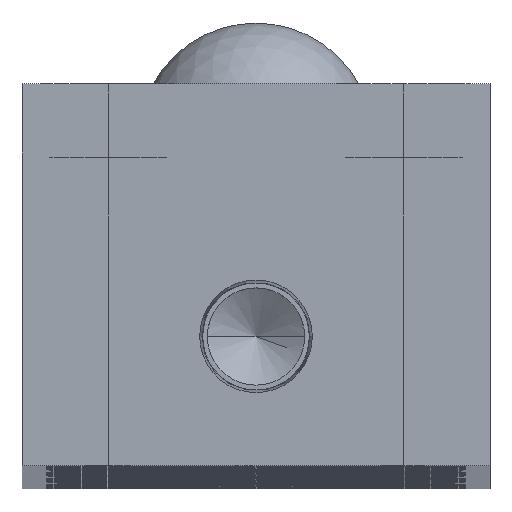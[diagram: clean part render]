
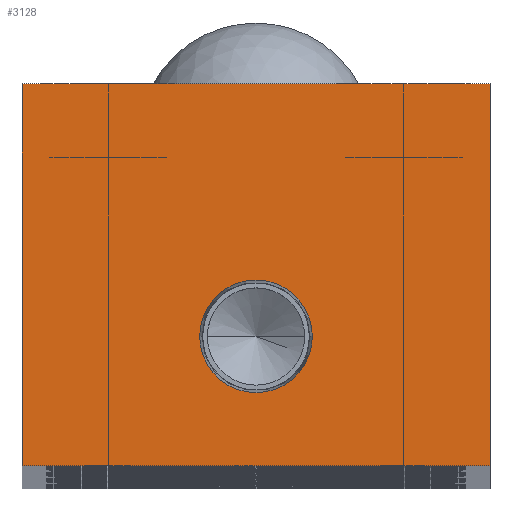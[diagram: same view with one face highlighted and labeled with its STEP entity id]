
A CAD part, top view. The second image highlights one B-rep face of the part: STEP entity #3128.
In plain terms, the highlighted planar face has unit normal (0, 0, 1).
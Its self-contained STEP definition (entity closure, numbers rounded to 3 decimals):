
#39 = CIRCLE ( 'NONE', #481, 4.574 ) ;
#481 = AXIS2_PLACEMENT_3D ( 'NONE', #24424, #12923, #1458 ) ;
#511 = VERTEX_POINT ( 'NONE', #7369 ) ;
#593 = LINE ( 'NONE', #12651, #20957 ) ;
#1196 = CARTESIAN_POINT ( 'NONE',  ( 0., 10.5, 0. ) ) ;
#1456 = CIRCLE ( 'NONE', #21960, 4.574 ) ;
#1458 = DIRECTION ( 'NONE',  ( 1., 0., 0. ) ) ;
#2631 = LINE ( 'NONE', #17971, #22407 ) ;
#2856 = VECTOR ( 'NONE', #16881, 1000. ) ;
#2867 = PLANE ( 'NONE',  #15493 ) ;
#3047 = CARTESIAN_POINT ( 'NONE',  ( 19., 31., 0. ) ) ;
#3128 = ADVANCED_FACE ( 'NONE', ( #23019, #12830 ), #2867, .F. ) ;
#3140 = DIRECTION ( 'NONE',  ( 1., 0., 0. ) ) ;
#3186 = EDGE_CURVE ( 'NONE', #24051, #24291, #1456, .T. ) ;
#3644 = EDGE_CURVE ( 'NONE', #23095, #12172, #2631, .T. ) ;
#4584 = DIRECTION ( 'NONE',  ( 1., 0., 0. ) ) ;
#4786 = DIRECTION ( 'NONE',  ( -1., 0., 0. ) ) ;
#5058 = CARTESIAN_POINT ( 'NONE',  ( -19., 0., 0. ) ) ;
#5246 = EDGE_CURVE ( 'NONE', #511, #23095, #22624, .T. ) ;
#5411 = CARTESIAN_POINT ( 'NONE',  ( -19., 0., 0. ) ) ;
#6041 = EDGE_LOOP ( 'NONE', ( #10821, #6872, #24621, #8936 ) ) ;
#6324 = DIRECTION ( 'NONE',  ( 0., 1., 0. ) ) ;
#6872 = ORIENTED_EDGE ( 'NONE', *, *, #3644, .T. ) ;
#7215 = EDGE_CURVE ( 'NONE', #17043, #511, #593, .T. ) ;
#7369 = CARTESIAN_POINT ( 'NONE',  ( -19., 31., 0. ) ) ;
#8936 = ORIENTED_EDGE ( 'NONE', *, *, #7215, .T. ) ;
#9007 = CARTESIAN_POINT ( 'NONE',  ( -4.574, 10.5, 0. ) ) ;
#10301 = EDGE_CURVE ( 'NONE', #24291, #24051, #39, .T. ) ;
#10821 = ORIENTED_EDGE ( 'NONE', *, *, #5246, .T. ) ;
#11684 = EDGE_LOOP ( 'NONE', ( #14506, #24614 ) ) ;
#12172 = VERTEX_POINT ( 'NONE', #14902 ) ;
#12651 = CARTESIAN_POINT ( 'NONE',  ( -19., 31., 0. ) ) ;
#12830 = FACE_OUTER_BOUND ( 'NONE', #6041, .T. ) ;
#12923 = DIRECTION ( 'NONE',  ( 0., 0., 1. ) ) ;
#13944 = CARTESIAN_POINT ( 'NONE',  ( 19., 31., 0. ) ) ;
#14506 = ORIENTED_EDGE ( 'NONE', *, *, #3186, .F. ) ;
#14558 = DIRECTION ( 'NONE',  ( 0., 0., 1. ) ) ;
#14902 = CARTESIAN_POINT ( 'NONE',  ( 19., 0., 0. ) ) ;
#15493 = AXIS2_PLACEMENT_3D ( 'NONE', #21962, #16245, #4786 ) ;
#15697 = CARTESIAN_POINT ( 'NONE',  ( 4.574, 10.5, 0. ) ) ;
#16245 = DIRECTION ( 'NONE',  ( 0., 0., -1. ) ) ;
#16881 = DIRECTION ( 'NONE',  ( 0., -1., 0. ) ) ;
#17043 = VERTEX_POINT ( 'NONE', #3047 ) ;
#17971 = CARTESIAN_POINT ( 'NONE',  ( 19., 0., 0. ) ) ;
#19424 = VECTOR ( 'NONE', #6324, 1000. ) ;
#20030 = LINE ( 'NONE', #13944, #19424 ) ;
#20253 = DIRECTION ( 'NONE',  ( -1., 0., 0. ) ) ;
#20957 = VECTOR ( 'NONE', #20253, 1000. ) ;
#21353 = EDGE_CURVE ( 'NONE', #12172, #17043, #20030, .T. ) ;
#21960 = AXIS2_PLACEMENT_3D ( 'NONE', #1196, #14558, #3140 ) ;
#21962 = CARTESIAN_POINT ( 'NONE',  ( 0., 0., 0. ) ) ;
#22407 = VECTOR ( 'NONE', #4584, 1000. ) ;
#22624 = LINE ( 'NONE', #5411, #2856 ) ;
#23019 = FACE_BOUND ( 'NONE', #11684, .T. ) ;
#23095 = VERTEX_POINT ( 'NONE', #5058 ) ;
#24051 = VERTEX_POINT ( 'NONE', #15697 ) ;
#24291 = VERTEX_POINT ( 'NONE', #9007 ) ;
#24424 = CARTESIAN_POINT ( 'NONE',  ( 0., 10.5, 0. ) ) ;
#24614 = ORIENTED_EDGE ( 'NONE', *, *, #10301, .F. ) ;
#24621 = ORIENTED_EDGE ( 'NONE', *, *, #21353, .T. ) ;
